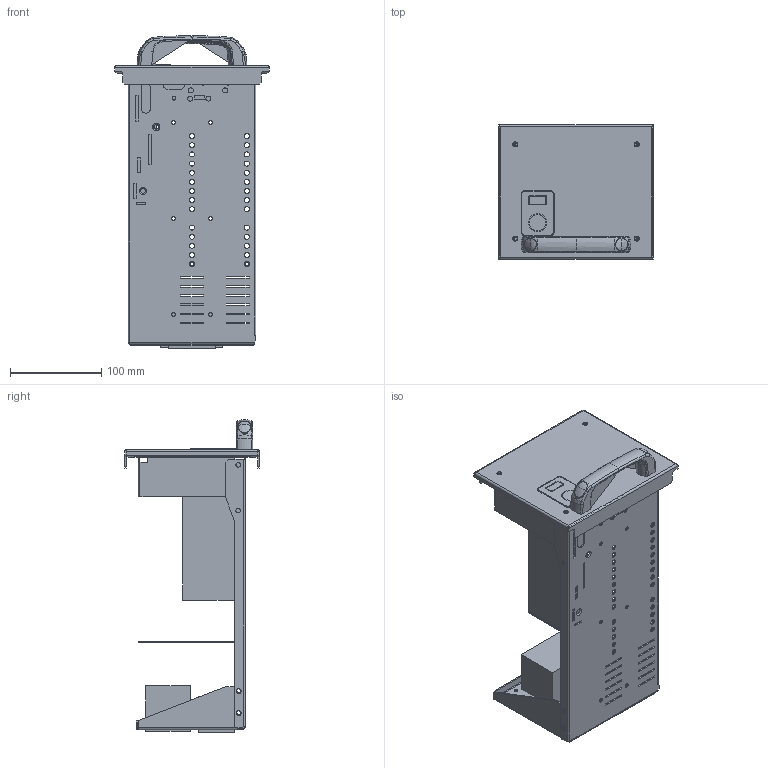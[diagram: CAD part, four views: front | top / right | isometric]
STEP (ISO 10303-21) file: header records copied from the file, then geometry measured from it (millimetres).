
FILE_DESCRIPTION(('CAx-IF Rec.Pracs.---Model Styling and Organization---1.2---2011-12-15','CAx-IF Rec.Pracs.---Geometric and Assembly Validation Properties---4.1---2014-06-16','CAx-IF Rec.Pracs.---PMI Polyline Presentation---2.0---2013-05-24'),'2;1');
FILE_NAME('3М3.stp','2021-05-05T11:46:56+03:00',(''),(''),'STEP Interface 4.4 by CT CoreTechnologie','3D_Evolution4.4 by CT CoreTechnologie','');
FILE_SCHEMA(('AUTOMOTIVE_DESIGN { 1 0 10303 214 1 1 1 1 }'));
Length unit declared in the file: millimetre
Products named in the file (24): 3Ì3; êíîïêà äðîáíûé; áëîêèðîâêà ìåõàíèçì; ïîëâèí÷àòûé âòîðè÷íûå; RB.1215.00.00.0 ÑÁ_-03; RB.1215.02.00.0 ÑÁ_-03; RB.1215.02.01.0_-00_1; RB.1215.00.01.0_-01; RB.1215.01.00.0 ÑÁ_-01; RB.1215.01.01.0_-01; RB.1503.00.02.0_-00; RB.1503.00.03.0_123; RB.1503.00.04.0_123; PF 7x14 RAMmcc 2.0_1x3; AC00C061_AC00C061; Ì6õ12-A5100231_straight; ñèëîâûå äðîáûé; 4.444.001; PR.DT477.100.02; PR.DT477.100.01; M5x16 GOST 17475-80 (DIN 965)_straight; RB.1200.00.00.0_-01; R5M2W...M...BR..._R5M2W3M3BR35; RB.1353.00.00.0_-01
Assembly tree (24 placements, depth 4):
  3Ì3
    êíîïêà äðîáíûé
    áëîêèðîâêà ìåõàíèçì
    ïîëâèí÷àòûé âòîðè÷íûå
    RB.1215.00.00.0 ÑÁ_-03
      RB.1215.02.00.0 ÑÁ_-03
        RB.1215.02.01.0_-00_1
      RB.1215.00.01.0_-01
      RB.1215.01.00.0 ÑÁ_-01
        RB.1215.01.01.0_-01
        RB.1503.00.02.0_-00
        RB.1503.00.03.0_123
        RB.1503.00.04.0_123
        PF 7x14 RAMmcc 2.0_1x3
        AC00C061_AC00C061
        Ì6õ12-A5100231_straight
    ñèëîâûå äðîáûé
    4.444.001
      PR.DT477.100.02  x2
      PR.DT477.100.01
    M5x16 GOST 17475-80 (DIN 965)_straight
    RB.1200.00.00.0_-01
    R5M2W...M...BR..._R5M2W3M3BR35
      RB.1353.00.00.0_-01
Bounding box: 169.5 x 147 x 342.14 mm (x, y, z)
Surface area: 406461.3 mm2 (no closed solid volume)
Topology: 0 solids, 25 shells, 1767 faces, 4601 edges, 2868 vertices
Faces by surface type: bspline 668, plane 660, cylinder 439
Entity records: 85000 total; most frequent: CARTESIAN_POINT 30094, ORIENTED_EDGE 8692, DIRECTION 8112, EDGE_CURVE 4346, AXIS2_PLACEMENT_3D 2937, VERTEX_POINT 2731, VECTOR 2238, LINE 2238
